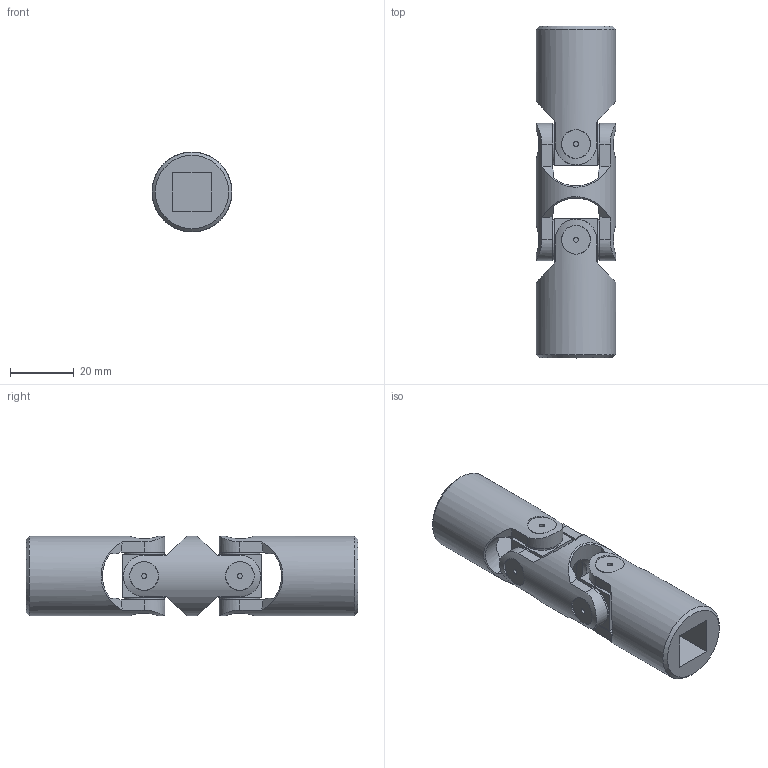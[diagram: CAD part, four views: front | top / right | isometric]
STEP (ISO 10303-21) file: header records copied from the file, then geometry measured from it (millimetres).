
FILE_DESCRIPTION(/* description */ (''),/* implementation_level */ '2;1');
FILE_NAME(/* name */ '\\SRV2016\Societa\Stefano\Disegni 3D\00Catalogo 3D\02Doppi GD-GBD\SGBD162Q.stp',/* time_stamp */ '2021-11-22T17:10:57+01:00',/* author */ ('acquisti'),/* organization */ (''),/* preprocessor_version */ 'ST-DEVELOPER v15.6',/* originating_system */ 'Autodesk Inventor 2015',/* authorisation */ '');
FILE_SCHEMA (('AUTOMOTIVE_DESIGN { 1 0 10303 214 3 1 1 }'));
Length unit declared in the file: millimetre
Products named in the file (4): 04G MOD; 04G SFE; 1GB MOQ; Ø25_1GBD-00_SGBD1600
Assembly tree (5 placements, depth 2):
  Ø25_1GBD-00_SGBD1600
    04G MOD
    04G SFE  x2
    1GB MOQ  x2
Bounding box: 25 x 104 x 25 mm (x, y, z)
Volume: 33072 mm3; surface area: 16030.8 mm2
Topology: 5 solids, 5 shells, 179 faces, 433 edges, 284 vertices
Faces by surface type: plane 78, cylinder 69, cone 28, torus 4
Full cylindrical faces by diameter (mm): 1.5 x8, 12.5 x8, 13 x2, 25 x3
Entity records: 4108 total; most frequent: CARTESIAN_POINT 1411, ORIENTED_EDGE 548, DIRECTION 510, EDGE_CURVE 274, AXIS2_PLACEMENT_3D 223, VERTEX_POINT 192, EDGE_LOOP 158, FACE_OUTER_BOUND 121
